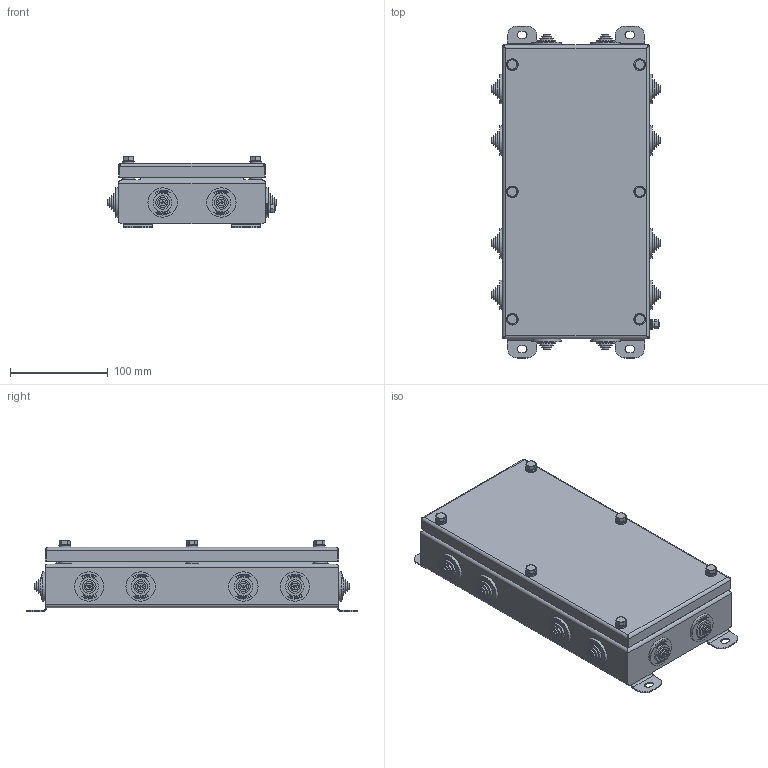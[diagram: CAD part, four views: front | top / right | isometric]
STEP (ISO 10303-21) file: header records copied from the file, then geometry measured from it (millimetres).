
FILE_DESCRIPTION(('STEP AP203'), '1');
FILE_NAME('Êîðîáêà 1530 IP55', '', ('UNSPECIFIED'), ('UNSPECIFIED'), 'ASCON STEP Converter 1.6', 'ASCON Math Kernel', '');
FILE_SCHEMA(('CONFIG_CONTROL_DESIGN'));
Length unit declared in the file: millimetre
Bounding box: 172.5 x 339 x 72.5 mm (x, y, z)
Volume: 2597226.3 mm3; surface area: 209992 mm2
Topology: 2 solids, 2 shells, 2449 faces, 6338 edges, 4186 vertices
Faces by surface type: plane 1818, extrusion 432, cylinder 171, cone 12, torus 8, bspline 8
Full cylindrical faces by diameter (mm): 3.7 x1, 4.134 x1, 5 x1, 5.5 x2, 6 x6, 6.5 x1, 6.6 x6, 7 x12, 8.5 x6, 10 x14, 12 x6, 13 x6, 14 x18, 19 x12, 30 x12
Entity records: 99075 total; most frequent: CARTESIAN_POINT 21574, ORIENTED_EDGE 12428, DIRECTION 10052, EDGE_CURVE 6214, VECTOR 5308, LINE 4876, VERTEX_POINT 4186, EDGE_LOOP 2902
